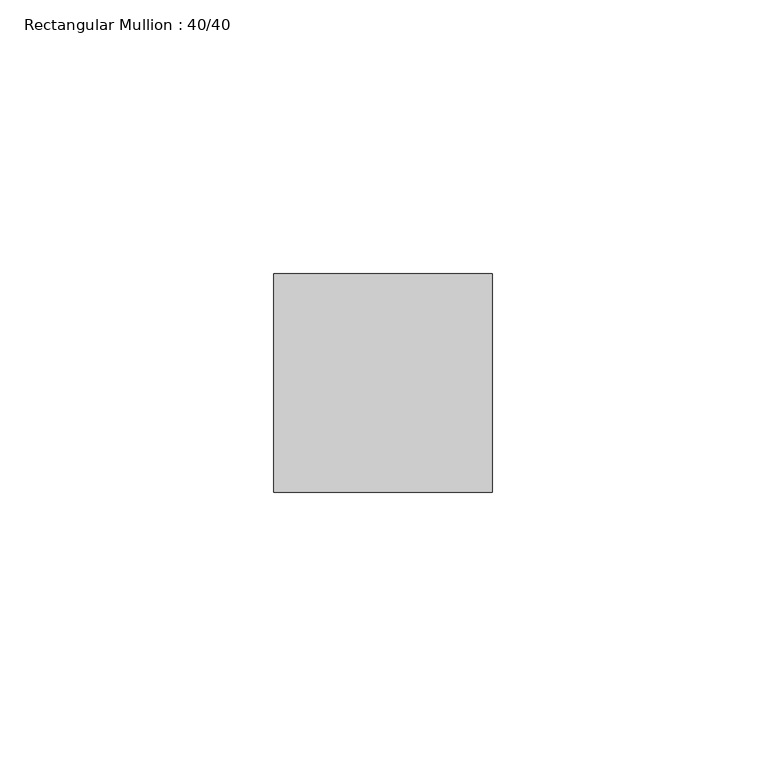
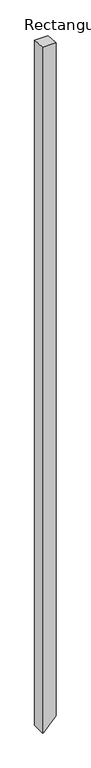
"""IFC4 building model written with IfcOpenShell, lengths in millimetres: member geometry, Rectangular Mullion : 40/40."""

from ifc_helpers import new_model, si_unit, frame, origin, place, context, project, spatial, circle_curve, source, transform, mapped, element, save
from ifc_brep_helpers import plane_surface, cylinder_surface, advanced_brep


def rectangular_mullion_40_40_604e859a(model_context):
    return source(origin(), model_context, "Body", "AdvancedBrep", [
        advanced_brep(
        [(-20.0, 20.0, -1.3985362), (20.0, 20.0, -1.3985362), (20.0, 20.0, -2100.7127461), (-17.0212593, 20.0, -2140.3111283), (-20.0, 20.0, -2140.3111283), (-20.0, -20.0, 1.3985362), (-20.0, -20.0, -2140.3111283), (20.0, -20.0, 1.3985362), (-17.0212593, -20.0, -2140.3111283), (20.0, -20.0, -2100.7127461)],
        [
            (0, 1),
            (1, 2),
            (2, 3, circle_curve(frame((-2265.8841774, 20.0, -0.7025094), z_axis=(0.0, 1.0, 0.0), x_axis=(0.999999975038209, 0.0, 0.0002234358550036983)), 3104.0794878)),
            (3, 4),
            (4, 0),
            (5, 0),
            (4, 6),
            (6, 5),
            (7, 5),
            (6, 8),
            (8, 9, circle_curve(frame((-2265.8841774, -20.0, -0.7025094), z_axis=(0.0, -1.0, 0.0), x_axis=(0.999999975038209, 0.0, 0.0002234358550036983)), 3104.0794878)),
            (9, 7),
            (1, 7),
            (9, 2),
            (8, 3),
        ],
        [
            plane_surface(frame((20.0, 20.0, 0.0), z_axis=(0.0, 1.0, 0.0), x_axis=(0.0, 0.0, -1.0))),
            plane_surface(frame((-20.0, 20.0, 0.0), z_axis=(-1.0, 0.0, 0.0), x_axis=(0.0, 0.0, -1.0))),
            plane_surface(frame((-20.0, -20.0, 0.0), z_axis=(0.0, -1.0, 0.0), x_axis=(0.0, 0.0, -1.0))),
            plane_surface(frame((20.0, -20.0, 0.0), z_axis=(1.0, 0.0, 0.0), x_axis=(0.0, 0.0, -1.0))),
            plane_surface(frame((-304.8, 0.0, 0.0), z_axis=(0.0, 0.06975647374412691, 0.9975640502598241), x_axis=(0.0, 0.9975640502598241, -0.06975647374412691))),
            cylinder_surface(frame((-2265.8841774, 0.0, -0.7025094), z_axis=(0.0, 1.0000000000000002, 0.0), x_axis=(0.999999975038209, 0.0, 0.0002234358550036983)), 3104.0794878),
            plane_surface(frame((-17.0212593, 20.0, -2140.3111283), z_axis=(0.0, 0.0, -1.0), x_axis=(-1.0, 0.0, 0.0))),
        ],
        [
            (0, [[1, 2, 3, 4, 5]]),
            (1, [[6, -5, 7, 8]]),
            (2, [[9, -8, 10, 11, 12]]),
            (3, [[13, -12, 14, -2]]),
            (4, [[-1, -6, -9, -13]]),
            (5, [[-14, -11, 15, -3]]),
            (6, [[-10, -7, -4, -15]]),
        ],
    ),
    ])


if __name__ == "__main__":
    model = new_model("IFC4")
    model_context = context("Model", 3, world=origin())
    ifc_project = project(units=[si_unit("LENGTHUNIT", "METRE", prefix="MILLI")], contexts=[model_context])
    site = spatial("IfcSite", under=ifc_project)
    building = spatial("IfcBuilding", under=site)
    placement = place(None, origin())
    rectangular_mullion_40_40_shape = rectangular_mullion_40_40_604e859a(model_context)
    element("IfcMember", 1, ObjectType="Rectangular Mullion : 40/40", at=placement, inside=building, context=model_context, shape_type="MappedRepresentation", body=[
        mapped(rectangular_mullion_40_40_shape, transform((0.0, 0.0, 0.0), x_axis=(1.0, 0.0, 0.0), y_axis=(0.0, 1.0, 0.0), z_axis=(0.0, 0.0, 1.0))),
    ])
    save(model, "model.ifc")
